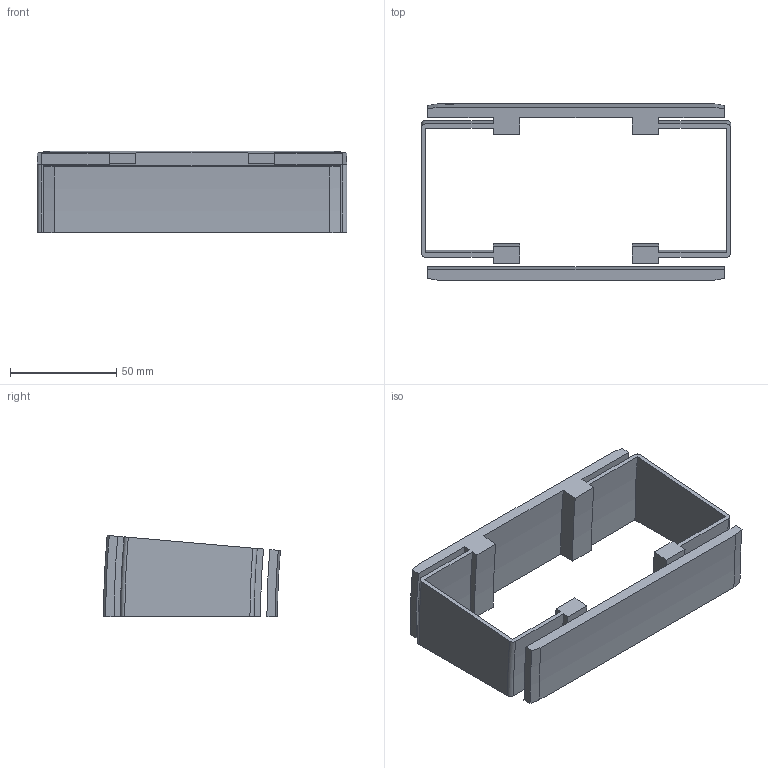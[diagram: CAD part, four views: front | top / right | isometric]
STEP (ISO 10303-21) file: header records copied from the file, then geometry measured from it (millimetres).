
FILE_DESCRIPTION((''),'2;1');
FILE_NAME('C:\Vault Klient\Projekt\Koncept konstruktion\Serie 540 Balk\540-5600_DOWN.stp','2010-11-25T11:03:46',('Mathias'),(''),'Autodesk Inventor 2011','Autodesk Inventor 2011','');
FILE_SCHEMA(('AUTOMOTIVE_DESIGN { 1 0 10303 214 1 1 1 1 }'));
Length unit declared in the file: millimetre
Products named in the file (1): 540-5600_DOWN
Bounding box: 146 x 83.36 x 38.3 mm (x, y, z)
Volume: 79902.7 mm3; surface area: 45804 mm2
Topology: 2 solids, 2 shells, 87 faces, 234 edges, 156 vertices
Faces by surface type: plane 38, cylinder 25, bspline 14, cone 6, torus 4
Entity records: 3154 total; most frequent: CARTESIAN_POINT 916, ORIENTED_EDGE 468, DIRECTION 428, EDGE_CURVE 234, VERTEX_POINT 156, AXIS2_PLACEMENT_3D 148, VECTOR 132, LINE 132
